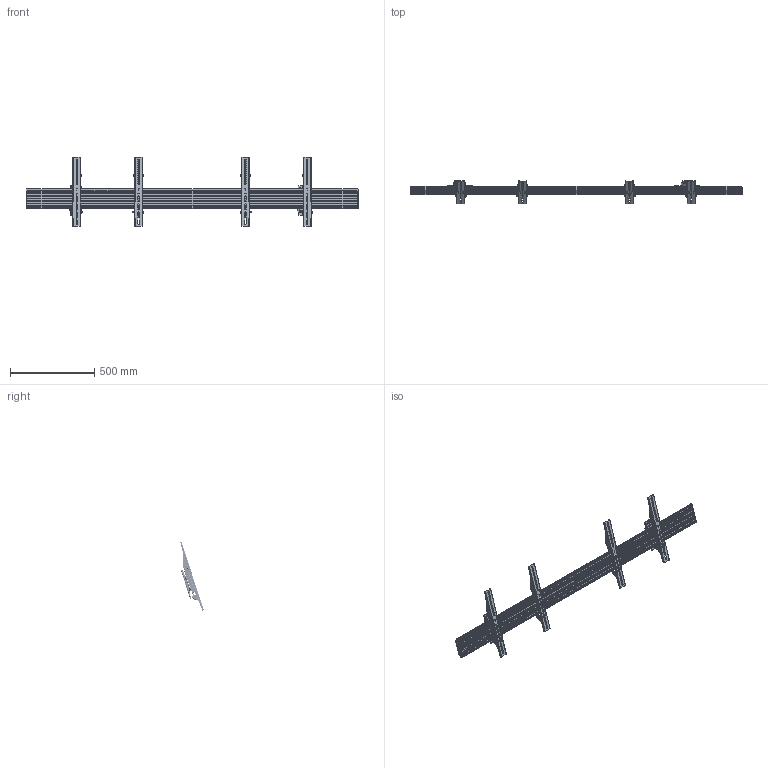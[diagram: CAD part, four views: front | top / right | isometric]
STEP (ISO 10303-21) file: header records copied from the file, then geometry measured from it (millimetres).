
FILE_DESCRIPTION (( 'STEP AP203' ), '1' );
FILE_NAME ('39661.STEP', '2019-07-27T07:12:09', ( '微软用户' ), ( 'Sky123.Org' ), 'SwSTEP 2.0', 'SolidWorks 2016', '' );
FILE_SCHEMA (( 'CONFIG_CONTROL_DESIGN' ));
Length unit declared in the file: millimetre
Products named in the file (38): 嘐隅郪璃 - 2; 筵寢傷裔; 噩砃400T____ ^T400 arm Kanto Version; 噩砃NEWT境像; 400T____ ^T400 arm Kanto Version; NEWT境像; T倰璃; 噩砃M6-15坋趼蹟佪; 噩砃蟀諉え1-; M6-15坋趼蹟佪; 蟀諉え1-; Х旋倰Х啣NEW-2; 噩砃M6-60; 镜向M6-45内六角圆柱头; M6-60; M6-45囀鞠褒埴翐芛; 39661; 噩砃NEW衵境像郪璃; 噩砃11-6-5傍杶; NEW衵境像郪璃; 11-6-5傍杶; 噩砃NEW酘境像郪璃; 噩砃M6-50; NEW酘境像郪璃; M6-50; 16-8.2-1.5; 噩砃M6攝韓蹟譫; hexagon socket button head screws gb_GB_SOCKET_TYPE7 M8X12-N; M6攝韓蹟譫; T倰蟀諉璃; 噩砃M6-15; 臏筵寢480; M6-15; 臏筵寢680; 邧芛嘐隅釱SLDASM; 噩砃16-6.2-1.5; 滅聒蹟蹟佪; 16-6.2-1.5
Assembly tree (141 placements, depth 3):
  39661
    嘐隅郪璃 - 2
      臏筵寢680
    NEW衵境像郪璃
      NEWT境像
      蟀諉え1-
      M6-45囀鞠褒埴翐芛  x2
      11-6-5傍杶  x2
      M6-50  x2
      M6攝韓蹟譫  x3
      M6-15
      16-6.2-1.5  x10
      400T____ ^T400 arm Kanto Version
      M6-15坋趼蹟佪
      M6-60
    NEW酘境像郪璃
      NEWT境像
      蟀諉え1-
      M6-45囀鞠褒埴翐芛  x2
      11-6-5傍杶  x2
      M6-50  x2
      M6攝韓蹟譫  x3
      M6-15
      16-6.2-1.5  x10
      400T____ ^T400 arm Kanto Version
      M6-15坋趼蹟佪
      M6-60
    hexagon socket button head screws gb_GB_SOCKET_TYPE7 M8X12-N  x8
    16-6.2-1.5  x2
    臏筵寢480  x2
    滅聒蹟蹟佪  x2
    噩砃NEW衵境像郪璃
      噩砃NEWT境像
      噩砃蟀諉え1-
      镜向M6-45内六角圆柱头  x2
      噩砃11-6-5傍杶  x2
      噩砃M6-50  x2
      噩砃M6攝韓蹟譫  x3
      噩砃M6-15
      噩砃16-6.2-1.5  x10
      噩砃400T____ ^T400 arm Kanto Version
      噩砃M6-15坋趼蹟佪
      噩砃M6-60
    噩砃NEW酘境像郪璃
      噩砃NEWT境像
      噩砃蟀諉え1-
      镜向M6-45内六角圆柱头  x2
      噩砃11-6-5傍杶  x2
      噩砃M6-50  x2
      噩砃M6攝韓蹟譫  x3
      噩砃M6-15
      噩砃16-6.2-1.5  x10
      噩砃400T____ ^T400 arm Kanto Version
      噩砃M6-15坋趼蹟佪
      噩砃M6-60
    邧芛嘐隅釱SLDASM
      16-8.2-1.5  x4
      T倰蟀諉璃  x4
    筵寢傷裔  x2
    T倰璃  x8
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Bounding box: 1970 x 139.68 x 410.76 mm (x, y, z)
Volume: 2383740.5 mm3; surface area: 2093781.4 mm2
Topology: 171 solids, 171 shells, 5776 faces, 15172 edges, 9798 vertices
Faces by surface type: cylinder 2527, plane 2367, bspline 570, cone 264, torus 48
Entity records: 90368 total; most frequent: CARTESIAN_POINT 25444, ORIENTED_EDGE 12278, DIRECTION 12247, EDGE_CURVE 6139, AXIS2_PLACEMENT_3D 4457, VERTEX_POINT 3952, LINE 3333, VECTOR 3333
